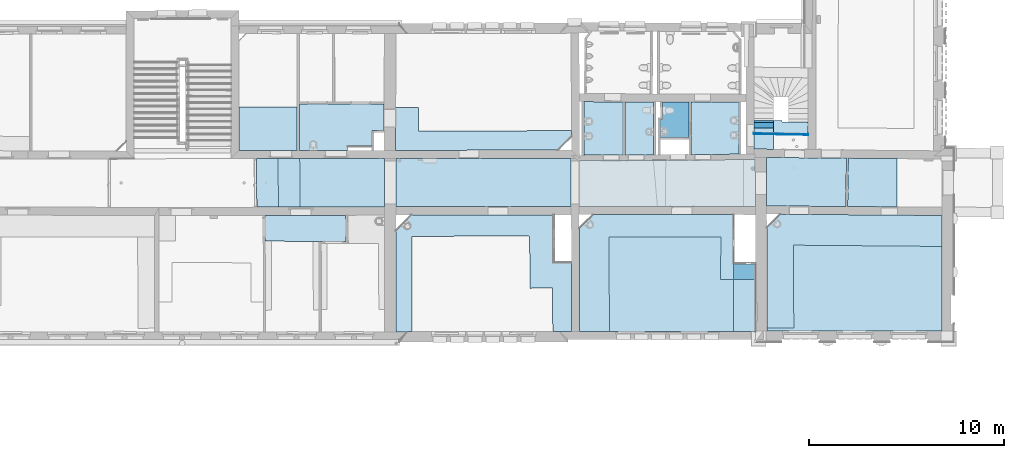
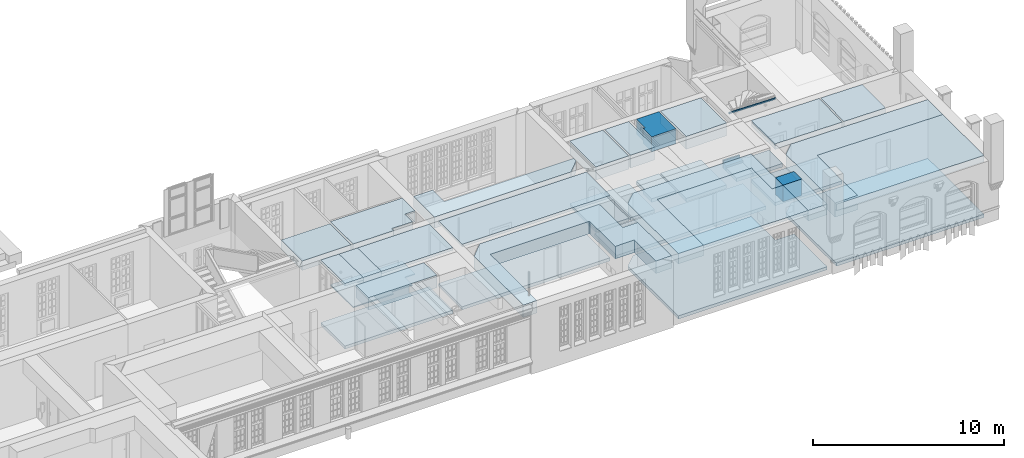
# One storey, part 3 of 90: 37 slabs.
"""IFC2X3 building model written with IfcOpenShell, lengths in metres."""

from ifc_helpers import new_model, entity, si_unit, converted_unit, derived_unit, money_unit, direction, frame, origin_with_axes, place, context, subcontext, project, spatial, polyline, outline, extrude, material, layer, layer_set, layer_usage, type_object, element, save


model = new_model("IFC2X3")

# Units and contexts
model_context = context("Model", 3, precision=1e-05, world=origin_with_axes(), true_north=direction((0.0, 1.0)))
body_context = subcontext(model_context, "Body", "Model", "MODEL_VIEW")
ifc_project = project(units=[si_unit("LENGTHUNIT", "METRE"), si_unit("AREAUNIT", "SQUARE_METRE"), si_unit("VOLUMEUNIT", "CUBIC_METRE"), converted_unit("PLANEANGLEUNIT", "DEGREE", entity("IfcPlaneAngleMeasure", 0.0174532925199), si_unit("PLANEANGLEUNIT", "RADIAN"), dimensions=[0, 0, 0, 0, 0, 0, 0]), money_unit("EUR"), converted_unit("TIMEUNIT", "Year", entity("IfcTimeMeasure", 31556926.0), si_unit("TIMEUNIT", "SECOND"), dimensions=[0, 0, 1, 0, 0, 0, 0]), si_unit("MASSUNIT", "GRAM", prefix="KILO"), si_unit("THERMODYNAMICTEMPERATUREUNIT", "DEGREE_CELSIUS"), si_unit("LUMINOUSINTENSITYUNIT", "LUMEN"), si_unit("ENERGYUNIT", "JOULE", prefix="MEGA"), derived_unit("THERMALCONDUCTANCEUNIT", [(si_unit("POWERUNIT", "WATT"), 1), (si_unit("LENGTHUNIT", "METRE"), -1), (si_unit("THERMODYNAMICTEMPERATUREUNIT", "KELVIN"), -1)]), derived_unit("SPECIFICHEATCAPACITYUNIT", [(si_unit("ENERGYUNIT", "JOULE"), 1), (si_unit("MASSUNIT", "GRAM", prefix="KILO"), -1), (si_unit("THERMODYNAMICTEMPERATUREUNIT", "KELVIN"), -1)]), derived_unit("MASSDENSITYUNIT", [(si_unit("MASSUNIT", "GRAM", prefix="KILO"), 1), (si_unit("VOLUMEUNIT", "CUBIC_METRE"), -1)])], contexts=[model_context])

# Site, building, storey
site_placement = place(None, origin_with_axes())
site = spatial("IfcSite", under=ifc_project, at=site_placement, Name="Gelände", CompositionType="ELEMENT")
building_placement = place(site_placement, origin_with_axes())
building = spatial("IfcBuilding", under=site, at=building_placement, Name="Gebäude", CompositionType="ELEMENT")
storey_placement = place(building_placement, frame((0.0, 0.0, 3.7), z_axis=(0.0, 0.0, 1.0), x_axis=(1.0, 0.0, 0.0)))
storey = spatial("IfcBuildingStorey", under=building, at=storey_placement, Name="1.OBERGESCHOSS", CompositionType="ELEMENT", Elevation=3.7)

# Slabs
ifc_material = material(Name="05_ALLGEMEIN - TRAGENDE BAUTEILE")
ifc_layer_1 = layer(ifc_material, 0.17, ventilated="UNKNOWN")
ifc_layer_set_1 = layer_set([ifc_layer_1], Name="05_ALLGEMEIN - TRAGENDE BAUTEILE 0.17")
ifc_layer_usage_1 = layer_usage(ifc_layer_set_1, "AXIS3", "NEGATIVE", 0.17)
slab_type_1 = type_object("IfcSlabType", Name="05_ALLGEMEIN - TRAGENDE BAUTEILE 170", PredefinedType="NOTDEFINED")
slab_1_placement = place(storey_placement, frame((3.56592682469, 16.8108172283, 3.93), z_axis=(0.0, 0.0, 1.0), x_axis=(1.0, 0.0, 0.0)))
element("IfcSlab", 1, at=slab_1_placement, inside=storey, type_object=slab_type_1, material=ifc_layer_usage_1, Name="Belag-039", PredefinedType="NOTDEFINED", context=body_context, shape_type="SweptSolid", body=[
    extrude(outline(polyline([(0.0, 0.0), (8.97097018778, 0.000310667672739), (8.96157596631, 2.47037920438), (0.0031463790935, 2.4677711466), (0.0, 0.0)])), origin_with_axes(), (0.0, 0.0, 1.0), 0.17),
])
ifc_layer_usage_2 = layer_usage(ifc_layer_set_1, "AXIS3", "NEGATIVE", 0.17)
slab_2_placement = place(storey_placement, frame((2.98907257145, 19.2784196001, 3.93), z_axis=(0.0, 0.0, 1.0), x_axis=(1.0, 0.0, 0.0)))
element("IfcSlab", 2, at=slab_2_placement, inside=storey, type_object=slab_type_1, material=ifc_layer_usage_2, Name="Belag-040", PredefinedType="NOTDEFINED", context=body_context, shape_type="SweptSolid", body=[
    extrude(outline(polyline([(0.0, 0.0), (-4.34920182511, -0.00126615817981), (-4.32489718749, -2.49753767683), (-0.00317359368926, -2.48906283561), (0.0, 0.0)])), origin_with_axes(), (0.0, 0.0, 1.0), 0.17),
])
ifc_layer_usage_3 = layer_usage(ifc_layer_set_1, "AXIS3", "NEGATIVE", 0.17)
slab_3_placement = place(storey_placement, frame((-2.47728179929, 19.2768282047, 3.93), z_axis=(0.0, 0.0, 1.0), x_axis=(1.0, 0.0, 0.0)))
element("IfcSlab", 3, at=slab_3_placement, inside=storey, type_object=slab_type_1, material=ifc_layer_usage_3, Name="Belag-041", PredefinedType="NOTDEFINED", context=body_context, shape_type="SweptSolid", body=[
    extrude(outline(polyline([(0.0, 0.0), (-1.09707924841, -0.000319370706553), (-1.07949869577, -2.50030154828), (0.0331543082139, -2.49811964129), (0.0, 0.0)])), origin_with_axes(), (0.0, 0.0, 1.0), 0.17),
])
ifc_layer_2 = layer(ifc_material, 0.07, ventilated="UNKNOWN")
ifc_layer_set_2 = layer_set([ifc_layer_2], Name="05_ALLGEMEIN - TRAGENDE BAUTEILE 0.07")
ifc_layer_usage_4 = layer_usage(ifc_layer_set_2, "AXIS3", "NEGATIVE", 0.07)
slab_type_2 = type_object("IfcSlabType", Name="05_ALLGEMEIN - TRAGENDE BAUTEILE 70", PredefinedType="NOTDEFINED")
slab_4_placement = place(storey_placement, frame((2.96617481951, 22.0531302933, 0.07), z_axis=(0.0, 0.0, 1.0), x_axis=(1.0, 0.0, 0.0)))
element("IfcSlab", 4, at=slab_4_placement, inside=storey, type_object=slab_type_2, material=ifc_layer_usage_4, Name="Belag-022", PredefinedType="NOTDEFINED", context=body_context, shape_type="SweptSolid", body=[
    extrude(outline(polyline([(0.0, 0.0), (-4.34519696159, 0.0178505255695), (-4.34466997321, -2.36136663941), (-1.88757287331, -2.36065129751), (-1.88763600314, -2.14377560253), (-0.626664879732, -2.14543212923), (-0.628562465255, -1.35225361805), (-0.000857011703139, -1.34224951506), (0.0, 0.0)])), frame((0.0, 0.0, -0.07), z_axis=(0.0, 0.0, 1.0), x_axis=(1.0, 0.0, 0.0)), (0.0, 0.0, 1.0), 0.07),
])
ifc_layer_3 = layer(ifc_material, 0.2, ventilated="UNKNOWN")
ifc_layer_set_3 = layer_set([ifc_layer_3], Name="05_ALLGEMEIN - TRAGENDE BAUTEILE 0.2")
ifc_layer_usage_5 = layer_usage(ifc_layer_set_3, "AXIS3", "NEGATIVE", 0.2)
slab_type_3 = type_object("IfcSlabType", Name="05_ALLGEMEIN - TRAGENDE BAUTEILE 200", PredefinedType="NOTDEFINED")
slab_5_placement = place(storey_placement, frame((13.677992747, 16.3961181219, 0.1), z_axis=(0.0, 0.0, 1.0), x_axis=(1.0, 0.0, 0.0)))
element("IfcSlab", 5, at=slab_5_placement, inside=storey, type_object=slab_type_3, material=ifc_layer_usage_5, Name="Belag-023", PredefinedType="NOTDEFINED", context=body_context, shape_type="SweptSolid", body=[
    extrude(outline(polyline([(0.0, 0.0), (-0.726809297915, -0.711256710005), (-0.70674244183, -5.98749071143), (8.31180155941, -5.9816792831), (8.29977437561, -2.51502315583), (7.16404796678, -2.52053221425), (7.15934338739, -0.00371046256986), (0.0, 0.0)])), frame((0.0, 0.0, -0.2), z_axis=(0.0, 0.0, 1.0), x_axis=(1.0, 0.0, 0.0)), (0.0, 0.0, 1.0), 0.2),
])
ifc_layer_usage_6 = layer_usage(ifc_layer_set_3, "AXIS3", "NEGATIVE", 0.2)
slab_6_placement = place(storey_placement, frame((23.2639076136, 16.4184245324, 0.1), z_axis=(0.0, 0.0, 1.0), x_axis=(1.0, 0.0, 0.0)))
element("IfcSlab", 6, at=slab_6_placement, inside=storey, type_object=slab_type_3, material=ifc_layer_usage_6, Name="Belag-024", PredefinedType="NOTDEFINED", context=body_context, shape_type="SweptSolid", body=[
    extrude(outline(polyline([(0.0, 0.0), (-0.712516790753, -0.698432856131), (-0.694230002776, -5.9693362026), (8.24970889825, -5.96692939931), (8.25421171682, -0.0626994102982), (0.0, 0.0)])), frame((0.0, 0.0, -0.2), z_axis=(0.0, 0.0, 1.0), x_axis=(1.0, 0.0, 0.0)), (0.0, 0.0, 1.0), 0.2),
])
ifc_layer_usage_7 = layer_usage(ifc_layer_set_3, "AXIS3", "NEGATIVE", 0.2)
slab_7_placement = place(storey_placement, frame((26.6309141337, 19.2878694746, 0.1), z_axis=(0.0, 0.0, 1.0), x_axis=(1.0, 0.0, 0.0)))
element("IfcSlab", 7, at=slab_7_placement, inside=storey, type_object=slab_type_3, material=ifc_layer_usage_7, Name="Belag-025", PredefinedType="NOTDEFINED", context=body_context, shape_type="SweptSolid", body=[
    extrude(outline(polyline([(0.0, 0.0), (-4.09203245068, 0.0377068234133), (-4.08342250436, -2.44399090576), (-0.0345406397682, -2.47474639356), (0.0, 0.0)])), frame((0.0, 0.0, -0.2), z_axis=(0.0, 0.0, 1.0), x_axis=(1.0, 0.0, 0.0)), (0.0, 0.0, 1.0), 0.2),
])
ifc_layer_usage_8 = layer_usage(ifc_layer_set_3, "AXIS3", "NEGATIVE", 0.2)
slab_8_placement = place(storey_placement, frame((21.9592496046, 19.2185312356, 0.1), z_axis=(0.0, 0.0, 1.0), x_axis=(1.0, 0.0, 0.0)))
element("IfcSlab", 8, at=slab_8_placement, inside=storey, type_object=slab_type_3, material=ifc_layer_usage_8, Name="Belag-026", PredefinedType="NOTDEFINED", context=body_context, shape_type="SweptSolid", body=[
    extrude(outline(polyline([(0.0, 0.0), (-9.02126910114, -0.0621783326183), (-9.0123701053, -2.40203418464), (0.00834975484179, -2.40670932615), (0.0, 0.0)])), frame((0.0, 0.0, -0.2), z_axis=(0.0, 0.0, 1.0), x_axis=(1.0, 0.0, 0.0)), (0.0, 0.0, 1.0), 0.2),
])
ifc_layer_usage_9 = layer_usage(ifc_layer_set_3, "AXIS3", "NEGATIVE", 0.2)
slab_9_placement = place(storey_placement, frame((3.56907320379, 19.2785883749, 0.1), z_axis=(0.0, 0.0, 1.0), x_axis=(1.0, 0.0, 0.0)))
element("IfcSlab", 9, at=slab_9_placement, inside=storey, type_object=slab_type_3, material=ifc_layer_usage_9, Name="Belag-027", PredefinedType="NOTDEFINED", context=body_context, shape_type="SweptSolid", body=[
    extrude(outline(polyline([(0.0, 0.0), (-0.0031463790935, -2.4677711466), (8.96782380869, -2.46746047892), (8.95842958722, 0.00260805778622), (0.0, 0.0)])), frame((0.0, 0.0, -0.2), z_axis=(0.0, 0.0, 1.0), x_axis=(1.0, 0.0, 0.0)), (0.0, 0.0, 1.0), 0.2),
])
ifc_layer_usage_10 = layer_usage(ifc_layer_set_3, "AXIS3", "NEGATIVE", 0.2)
slab_10_placement = place(storey_placement, frame((2.98907257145, 19.2784195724, 0.1), z_axis=(0.0, 0.0, 1.0), x_axis=(1.0, 0.0, 0.0)))
element("IfcSlab", 10, at=slab_10_placement, inside=storey, type_object=slab_type_3, material=ifc_layer_usage_10, Name="Belag-028", PredefinedType="NOTDEFINED", context=body_context, shape_type="SweptSolid", body=[
    extrude(outline(polyline([(0.0, 0.0), (-6.56343361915, -0.00191077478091), (-6.54585306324, -2.50189291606), (-0.00317360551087, -2.48906284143), (0.0, 0.0)])), frame((0.0, 0.0, -0.2), z_axis=(0.0, 0.0, 1.0), x_axis=(1.0, 0.0, 0.0)), (0.0, 0.0, 1.0), 0.2),
])
ifc_layer_usage_11 = layer_usage(ifc_layer_set_3, "AXIS3", "NEGATIVE", 0.2)
slab_11_placement = place(storey_placement, frame((13.1831419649, 19.438049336, 0.1), z_axis=(0.0, 0.0, 1.0), x_axis=(1.0, 0.0, 0.0)))
element("IfcSlab", 11, at=slab_11_placement, inside=storey, type_object=slab_type_3, material=ifc_layer_usage_11, Name="Belag-033", PredefinedType="NOTDEFINED", context=body_context, shape_type="SweptSolid", body=[
    extrude(outline(polyline([(0.0, 0.0), (2.00373569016, 0.0138105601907), (2.00664637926, 2.73457574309), (0.00251049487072, 2.74074438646), (0.0, 0.0)])), frame((0.0, 0.0, -0.2), z_axis=(0.0, 0.0, 1.0), x_axis=(1.0, 0.0, 0.0)), (0.0, 0.0, 1.0), 0.2),
])
ifc_layer_usage_12 = layer_usage(ifc_layer_set_3, "AXIS3", "NEGATIVE", 0.2)
slab_12_placement = place(storey_placement, frame((15.2897880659, 22.1723172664, 0.1), z_axis=(0.0, 0.0, 1.0), x_axis=(1.0, 0.0, 0.0)))
element("IfcSlab", 12, at=slab_12_placement, inside=storey, type_object=slab_type_3, material=ifc_layer_usage_12, Name="Belag-034", PredefinedType="NOTDEFINED", context=body_context, shape_type="SweptSolid", body=[
    extrude(outline(polyline([(0.0, 0.0), (-0.00290960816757, -2.7197681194), (1.4706151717, -2.70961198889), (1.47500015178, -0.00453999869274), (0.0, 0.0)])), frame((0.0, 0.0, -0.2), z_axis=(0.0, 0.0, 1.0), x_axis=(1.0, 0.0, 0.0)), (0.0, 0.0, 1.0), 0.2),
])
ifc_layer_4 = layer(ifc_material, 0.228374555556, ventilated="UNKNOWN")
ifc_layer_set_4 = layer_set([ifc_layer_4], Name="05_ALLGEMEIN - TRAGENDE BAUTEILE 0.228375")
ifc_layer_usage_13 = layer_usage(ifc_layer_set_4, "AXIS3", "NEGATIVE", 0.228374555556)
slab_type_4 = type_object("IfcSlabType", Name="05_ALLGEMEIN - TRAGENDE BAUTEILE 228", PredefinedType="NOTDEFINED")
slab_13_placement = place(storey_placement, frame((21.8942092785, 19.7515346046, 0.128374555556), z_axis=(0.0, 0.0, 1.0), x_axis=(1.0, 0.0, 0.0)))
element("IfcSlab", 13, at=slab_13_placement, inside=storey, type_object=slab_type_4, material=ifc_layer_usage_13, Name="Belag-029", PredefinedType="NOTDEFINED", context=body_context, shape_type="SweptSolid", body=[
    extrude(outline(polyline([(0.0, 0.0), (0.999988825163, -0.00921459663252), (1.001488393, 1.14084799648), (0.00148924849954, 1.14215189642), (0.0, 0.0)])), frame((0.0, 0.0, -0.228374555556), z_axis=(0.0, 0.0, 1.0), x_axis=(1.0, 0.0, 0.0)), (0.0, 0.0, 1.0), 0.228374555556),
])
ifc_layer_usage_14 = layer_usage(ifc_layer_set_4, "AXIS3", "NEGATIVE", 0.228374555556)
slab_14_placement = place(storey_placement, frame((22.8941981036, 19.742320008, 0.128374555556), z_axis=(0.0, 0.0, 1.0), x_axis=(1.0, 0.0, 0.0)))
element("IfcSlab", 14, at=slab_14_placement, inside=storey, type_object=slab_type_4, material=ifc_layer_usage_14, Name="Belag-029", PredefinedType="NOTDEFINED", context=body_context, shape_type="SweptSolid", body=[
    extrude(outline(polyline([(0.0, 0.0), (1.77766144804, -0.0163806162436), (1.77787002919, 1.39662617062), (0.448693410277, 1.38709116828), (0.448097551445, 1.47015372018), (0.0019177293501, 1.47076293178), (0.0, 0.0)])), frame((0.0, 0.0, -0.228374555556), z_axis=(0.0, 0.0, 1.0), x_axis=(1.0, 0.0, 0.0)), (0.0, 0.0, 1.0), 0.228374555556),
])
ifc_layer_5 = layer(ifc_material, 0.356604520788, ventilated="UNKNOWN")
ifc_layer_set_5 = layer_set([ifc_layer_5], Name="05_ALLGEMEIN - TRAGENDE BAUTEILE 0.356605")
ifc_layer_usage_15 = layer_usage(ifc_layer_set_5, "AXIS3", "NEGATIVE", 0.356604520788)
slab_type_5 = type_object("IfcSlabType", Name="05_ALLGEMEIN - TRAGENDE BAUTEILE 357", PredefinedType="NOTDEFINED")
slab_15_placement = place(storey_placement, frame((22.8956324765, 20.8423826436, 0.256604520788), z_axis=(0.0, 0.0, 1.0), x_axis=(1.0, 0.0, 0.0)))
element("IfcSlab", 15, at=slab_15_placement, inside=storey, type_object=slab_type_5, material=ifc_layer_usage_15, Name="Belag-029", PredefinedType="NOTDEFINED", context=body_context, shape_type="SweptSolid", body=[
    extrude(outline(polyline([(0.0, 0.0), (0.000349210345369, 0.267819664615), (-0.999649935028, 0.269123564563), (-0.999999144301, 0.00130389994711), (0.0, 0.0)])), frame((0.0, 0.0, -0.356604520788), z_axis=(0.0, 0.0, 1.0), x_axis=(1.0, 0.0, 0.0)), (0.0, 0.0, 1.0), 0.356604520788),
])
ifc_layer_6 = layer(ifc_material, 0.532779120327, ventilated="UNKNOWN")
ifc_layer_set_6 = layer_set([ifc_layer_6], Name="05_ALLGEMEIN - TRAGENDE BAUTEILE 0.532779")
ifc_layer_usage_16 = layer_usage(ifc_layer_set_6, "AXIS3", "NEGATIVE", 0.532779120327)
slab_type_6 = type_object("IfcSlabType", Name="05_ALLGEMEIN - TRAGENDE BAUTEILE 533", PredefinedType="NOTDEFINED")
slab_16_placement = place(storey_placement, frame((22.8959816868, 21.1102023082, 0.432779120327), z_axis=(0.0, 0.0, 1.0), x_axis=(1.0, 0.0, 0.0)))
element("IfcSlab", 16, at=slab_16_placement, inside=storey, type_object=slab_type_6, material=ifc_layer_usage_16, Name="Belag-029", PredefinedType="NOTDEFINED", context=body_context, shape_type="SweptSolid", body=[
    extrude(outline(polyline([(0.0, 0.0), (0.000134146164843, 0.102880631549), (-0.999864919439, 0.104246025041), (-0.999999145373, 0.00130389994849), (0.0, 0.0)])), frame((0.0, 0.0, -0.532779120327), z_axis=(0.0, 0.0, 1.0), x_axis=(1.0, 0.0, 0.0)), (0.0, 0.0, 1.0), 0.532779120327),
])
ifc_layer_7 = layer(ifc_material, 0.0925042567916, ventilated="UNKNOWN")
ifc_layer_set_7 = layer_set([ifc_layer_7], Name="05_ALLGEMEIN - TRAGENDE BAUTEILE 0.0925043")
ifc_layer_usage_17 = layer_usage(ifc_layer_set_7, "AXIS3", "NEGATIVE", 0.0925042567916)
slab_type_7 = type_object("IfcSlabType", Name="05_ALLGEMEIN - TRAGENDE BAUTEILE 93", PredefinedType="NOTDEFINED")
slab_17_placement = place(storey_placement, frame((21.8952134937, 20.5216968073, 3.77749574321), z_axis=(0.0, 0.0, 1.0), x_axis=(1.0, 0.0, 0.0)))
element("IfcSlab", 17, at=slab_17_placement, inside=storey, type_object=slab_type_7, material=ifc_layer_usage_17, Name="Belag-030", PredefinedType="NOTDEFINED", context=body_context, shape_type="SweptSolid", body=[
    extrude(outline(polyline([(0.0, 0.0), (2.77675577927, -0.0524075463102), (2.77676612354, 0.0176163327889), (2.77583220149, -0.023373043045), (5.19696113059e-05, 0.039870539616), (0.0, 0.0)])), origin_with_axes(), (0.0, 0.0, 1.0), 0.0925042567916),
])
ifc_layer_8 = layer(ifc_material, 0.69, ventilated="UNKNOWN")
ifc_layer_set_8 = layer_set([ifc_layer_8], Name="05_ALLGEMEIN - TRAGENDE BAUTEILE 0.69")
ifc_layer_usage_18 = layer_usage(ifc_layer_set_8, "AXIS3", "NEGATIVE", 0.69)
slab_type_8 = type_object("IfcSlabType", Name="05_ALLGEMEIN - TRAGENDE BAUTEILE 690", PredefinedType="NOTDEFINED")
slab_18_placement = place(storey_placement, frame((2.96617481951, 22.0531302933, 3.41), z_axis=(0.0, 0.0, 1.0), x_axis=(1.0, 0.0, 0.0)))
element("IfcSlab", 18, at=slab_18_placement, inside=storey, type_object=slab_type_8, material=ifc_layer_usage_18, Name="Belag-034", PredefinedType="NOTDEFINED", context=body_context, shape_type="SweptSolid", body=[
    extrude(outline(polyline([(0.0, 0.0), (-4.34519696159, 0.0178505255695), (-4.34466997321, -2.36136663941), (-1.88757287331, -2.36065129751), (-1.88763600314, -2.14377560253), (-0.626664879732, -2.14543212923), (-0.628562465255, -1.35225361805), (-0.000857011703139, -1.34224951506), (0.0, 0.0)])), origin_with_axes(), (0.0, 0.0, 1.0), 0.69),
])
ifc_layer_9 = layer(ifc_material, 0.71, ventilated="UNKNOWN")
ifc_layer_set_9 = layer_set([ifc_layer_9], Name="05_ALLGEMEIN - TRAGENDE BAUTEILE 0.71")
ifc_layer_usage_19 = layer_usage(ifc_layer_set_9, "AXIS3", "NEGATIVE", 0.71)
slab_type_9 = type_object("IfcSlabType", Name="05_ALLGEMEIN - TRAGENDE BAUTEILE 710", PredefinedType="NOTDEFINED")
slab_19_placement = place(storey_placement, frame((3.55466810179, 19.6931998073, 3.39), z_axis=(0.0, 0.0, 1.0), x_axis=(1.0, 0.0, 0.0)))
element("IfcSlab", 19, at=slab_19_placement, inside=storey, type_object=slab_type_9, material=ifc_layer_usage_19, Name="Belag-035", PredefinedType="NOTDEFINED", context=body_context, shape_type="SweptSolid", body=[
    extrude(outline(polyline([(0.0, 0.0), (8.27057818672, 0.00240771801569), (9.00212082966, 0.739761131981), (9.00063681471, 1.00541617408), (1.15400184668, 0.984629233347), (1.16384989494, 2.18929322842), (0.0013992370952, 2.19137511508), (0.0, 0.0)])), origin_with_axes(), (0.0, 0.0, 1.0), 0.71),
])
ifc_layer_10 = layer(ifc_material, 0.23, ventilated="UNKNOWN")
ifc_layer_set_10 = layer_set([ifc_layer_10], Name="05_ALLGEMEIN - TRAGENDE BAUTEILE 0.23")
ifc_layer_usage_20 = layer_usage(ifc_layer_set_10, "AXIS3", "NEGATIVE", 0.23)
slab_type_10 = type_object("IfcSlabType", Name="05_ALLGEMEIN - TRAGENDE BAUTEILE 230", PredefinedType="NOTDEFINED")
slab_20_placement = place(storey_placement, frame((17.0906597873, 21.2634914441, 0.13), z_axis=(0.0, 0.0, 1.0), x_axis=(1.0, 0.0, 0.0)))
element("IfcSlab", 20, at=slab_20_placement, inside=storey, type_object=slab_type_10, material=ifc_layer_usage_20, Name="Belag-035", PredefinedType="NOTDEFINED", context=body_context, shape_type="SweptSolid", body=[
    extrude(outline(polyline([(0.0, 0.0), (-0.00107514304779, -0.916560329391), (1.48703949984, -0.904087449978), (1.48010937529, 0.898727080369), (0.117319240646, 0.90292169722), (0.125657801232, -0.0078136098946), (0.0, 0.0)])), frame((0.0, 0.0, -0.23), z_axis=(0.0, 0.0, 1.0), x_axis=(1.0, 0.0, 0.0)), (0.0, 0.0, 1.0), 0.23),
])
ifc_layer_usage_21 = layer_usage(ifc_layer_set_10, "AXIS3", "NEGATIVE", 0.23)
slab_21_placement = place(storey_placement, frame((21.1252305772, 22.1543559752, 0.13), z_axis=(0.0, 0.0, 1.0), x_axis=(1.0, 0.0, 0.0)))
element("IfcSlab", 21, at=slab_21_placement, inside=storey, type_object=slab_type_10, material=ifc_layer_usage_21, Name="Belag-036", PredefinedType="NOTDEFINED", context=body_context, shape_type="SweptSolid", body=[
    extrude(outline(polyline([(0.0, 0.0), (-2.45445949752, 0.00755474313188), (-2.44413448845, -2.67841249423), (0.00515590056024, -2.66153098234), (0.0, 0.0)])), frame((0.0, 0.0, -0.23), z_axis=(0.0, 0.0, 1.0), x_axis=(1.0, 0.0, 0.0)), (0.0, 0.0, 1.0), 0.23),
])
ifc_layer_11 = layer(ifc_material, 0.61, ventilated="UNKNOWN")
ifc_layer_set_11 = layer_set([ifc_layer_11], Name="05_ALLGEMEIN - TRAGENDE BAUTEILE 0.61")
ifc_layer_usage_22 = layer_usage(ifc_layer_set_11, "AXIS3", "NEGATIVE", 0.61)
slab_type_11 = type_object("IfcSlabType", Name="05_ALLGEMEIN - TRAGENDE BAUTEILE 610", PredefinedType="NOTDEFINED")
slab_22_placement = place(storey_placement, frame((-4.46417945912, 21.9044228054, 3.49), z_axis=(0.0, 0.0, 1.0), x_axis=(1.0, 0.0, 0.0)))
element("IfcSlab", 22, at=slab_22_placement, inside=storey, type_object=slab_type_11, material=ifc_layer_usage_22, Name="Belag-036", PredefinedType="NOTDEFINED", context=body_context, shape_type="SweptSolid", body=[
    extrude(outline(polyline([(0.0, 0.0), (-0.000976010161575, -2.21355774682), (2.95888980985, -2.21269605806), (2.95839953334, 0.000701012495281), (0.0, 0.0)])), origin_with_axes(), (0.0, 0.0, 1.0), 0.61),
])
ifc_layer_12 = layer(ifc_material, 0.91, ventilated="UNKNOWN")
ifc_layer_set_12 = layer_set([ifc_layer_12], Name="05_ALLGEMEIN - TRAGENDE BAUTEILE 0.91")
ifc_layer_usage_23 = layer_usage(ifc_layer_set_12, "AXIS3", "NEGATIVE", 0.91)
slab_type_12 = type_object("IfcSlabType", Name="05_ALLGEMEIN - TRAGENDE BAUTEILE 910", PredefinedType="NOTDEFINED")
slab_23_placement = place(storey_placement, frame((23.2639076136, 16.4184245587, 2.96), z_axis=(0.0, 0.0, 1.0), x_axis=(1.0, 0.0, 0.0)))
element("IfcSlab", 23, at=slab_23_placement, inside=storey, type_object=slab_type_12, material=ifc_layer_usage_23, Name="Belag-040", PredefinedType="NOTDEFINED", context=body_context, shape_type="SweptSolid", body=[
    extrude(outline(polyline([(0.0, 0.0), (-0.712516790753, -0.698432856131), (-0.694703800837, -5.83277760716), (0.670566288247, -5.82412805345), (0.659121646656, -1.58299940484), (8.2530022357, -1.64866586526), (8.25421171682, -0.0626994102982), (0.0, 0.0)])), origin_with_axes(), (0.0, 0.0, 1.0), 0.91),
])
ifc_layer_13 = layer(ifc_material, 0.67, ventilated="UNKNOWN")
ifc_layer_set_13 = layer_set([ifc_layer_13], Name="05_ALLGEMEIN - TRAGENDE BAUTEILE 0.67")
ifc_layer_usage_24 = layer_usage(ifc_layer_set_13, "AXIS3", "NEGATIVE", 0.67)
slab_type_13 = type_object("IfcSlabType", Name="05_ALLGEMEIN - TRAGENDE BAUTEILE 670", PredefinedType="NOTDEFINED")
slab_24_placement = place(storey_placement, frame((12.9511834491, 15.6848614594, 3.43), z_axis=(0.0, 0.0, 1.0), x_axis=(1.0, 0.0, 0.0)))
element("IfcSlab", 24, at=slab_24_placement, inside=storey, type_object=slab_type_13, material=ifc_layer_usage_24, Name="Belag-039", PredefinedType="NOTDEFINED", context=body_context, shape_type="SweptSolid", body=[
    extrude(outline(polyline([(0.0, 0.0), (0.0200668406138, -5.27623404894), (1.54385437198, -5.2752521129), (1.52264427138, -0.428943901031), (7.25652212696, -0.425064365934), (7.22790123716, -2.60910423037), (7.88978162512, -2.60887870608), (7.89085727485, -1.80927552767), (7.88615277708, 0.707546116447), (0.726809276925, 0.71125656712), (0.0, 0.0)])), origin_with_axes(), (0.0, 0.0, 1.0), 0.67),
])
ifc_layer_usage_25 = layer_usage(ifc_layer_set_13, "AXIS3", "NEGATIVE", 0.67)
slab_25_placement = place(storey_placement, frame((20.8409650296, 13.0759827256, 3.43), z_axis=(0.0, 0.0, 1.0), x_axis=(1.0, 0.0, 0.0)))
element("IfcSlab", 25, at=slab_25_placement, inside=storey, type_object=slab_type_13, material=ifc_layer_usage_25, Name="Belag-041", PredefinedType="NOTDEFINED", context=body_context, shape_type="SweptSolid", body=[
    extrude(outline(polyline([(0.0, 0.0), (-0.00358155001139, -2.66228644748), (1.14882927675, -2.66154384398), (1.14313197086, -1.01937510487), (1.13959402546, 0.000388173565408), (0.0, 0.0)])), origin_with_axes(), (0.0, 0.0, 1.0), 0.67),
])
ifc_layer_14 = layer(ifc_material, 0.8, ventilated="UNKNOWN")
ifc_layer_set_14 = layer_set([ifc_layer_14], Name="05_ALLGEMEIN - TRAGENDE BAUTEILE 0.8")
ifc_layer_usage_26 = layer_usage(ifc_layer_set_14, "AXIS3", "NEGATIVE", 0.8)
slab_type_14 = type_object("IfcSlabType", Name="05_ALLGEMEIN - TRAGENDE BAUTEILE 800", PredefinedType="NOTDEFINED")
slab_26_placement = place(storey_placement, frame((-3.1338573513, 16.3573552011, 3.3), z_axis=(0.0, 0.0, 1.0), x_axis=(1.0, 0.0, 0.0)))
element("IfcSlab", 26, at=slab_26_placement, inside=storey, type_object=slab_type_14, material=ifc_layer_usage_26, Name="Belag-039", PredefinedType="NOTDEFINED", context=body_context, shape_type="SweptSolid", body=[
    extrude(outline(polyline([(0.0, 0.0), (0.00617588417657, -1.31770376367), (0.317714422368, -1.31901290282), (2.76199937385, -1.32928427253), (4.14663507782, -1.32522202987), (4.12803760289, 0.00809501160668), (0.0, 0.0)])), origin_with_axes(), (0.0, 0.0, 1.0), 0.8),
])
ifc_layer_usage_27 = layer_usage(ifc_layer_set_14, "AXIS3", "NEGATIVE", 0.8)
slab_27_placement = place(storey_placement, frame((10.4119866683, 15.2555439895, 3.3), z_axis=(0.0, 0.0, 1.0), x_axis=(1.0, 0.0, 0.0)))
element("IfcSlab", 27, at=slab_27_placement, inside=storey, type_object=slab_type_14, material=ifc_layer_usage_27, Name="Belag-039", PredefinedType="NOTDEFINED", context=body_context, shape_type="SweptSolid", body=[
    extrude(outline(polyline([(0.0, 0.0), (0.0148415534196, -2.62698418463), (1.17188789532, -2.61728706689), (1.18452483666, -4.85250243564), (1.54621793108, -4.85256537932), (1.54621880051, -4.84756937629), (2.14926165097, -4.84718078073), (2.13582573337, -1.31443327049), (1.21685995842, -1.32288946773), (1.2168730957, 1.13555244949), (-6.03324666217, 1.13530138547), (-6.8476587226, 0.30126057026), (-6.8542393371, -4.85996437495), (-6.2718551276, -4.85992054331), (-6.2652563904, -4.85120598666), (-6.02225581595, -4.85124827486), (-6.02547065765, 0.0313172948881), (-0.0383435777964, 0.0440438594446), (0.0, 0.0)])), origin_with_axes(), (0.0, 0.0, 1.0), 0.8),
])
ifc_layer_15 = layer(ifc_material, 0.82, ventilated="UNKNOWN")
ifc_layer_set_15 = layer_set([ifc_layer_15], Name="05_ALLGEMEIN - TRAGENDE BAUTEILE 0.82")
ifc_layer_usage_28 = layer_usage(ifc_layer_set_15, "AXIS3", "NEGATIVE", 0.82)
slab_type_15 = type_object("IfcSlabType", Name="05_ALLGEMEIN - TRAGENDE BAUTEILE 820", PredefinedType="NOTDEFINED")
slab_28_placement = place(storey_placement, frame((15.2868784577, 19.452549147, 3.28), z_axis=(0.0, 0.0, 1.0), x_axis=(1.0, 0.0, 0.0)))
element("IfcSlab", 28, at=slab_28_placement, inside=storey, type_object=slab_type_15, material=ifc_layer_usage_28, Name="Belag-041", PredefinedType="NOTDEFINED", context=body_context, shape_type="SweptSolid", body=[
    extrude(outline(polyline([(0.0, 0.0), (1.47352477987, 0.0101561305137), (1.47790975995, 2.71522812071), (0.00290960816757, 2.7197681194), (0.0, 0.0)])), origin_with_axes(), (0.0, 0.0, 1.0), 0.82),
])
ifc_layer_usage_29 = layer_usage(ifc_layer_set_15, "AXIS3", "NEGATIVE", 0.82)
slab_29_placement = place(storey_placement, frame((21.1252305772, 22.1543559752, 3.28), z_axis=(0.0, 0.0, 1.0), x_axis=(1.0, 0.0, 0.0)))
element("IfcSlab", 29, at=slab_29_placement, inside=storey, type_object=slab_type_15, material=ifc_layer_usage_29, Name="Belag-043", PredefinedType="NOTDEFINED", context=body_context, shape_type="SweptSolid", body=[
    extrude(outline(polyline([(0.0, 0.0), (-2.45445949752, 0.00755474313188), (-2.44413448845, -2.67841249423), (0.00515590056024, -2.66153098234), (0.0, 0.0)])), origin_with_axes(), (0.0, 0.0, 1.0), 0.82),
])
ifc_layer_16 = layer(ifc_material, 0.86, ventilated="UNKNOWN")
ifc_layer_set_16 = layer_set([ifc_layer_16], Name="05_ALLGEMEIN - TRAGENDE BAUTEILE 0.86")
ifc_layer_usage_30 = layer_usage(ifc_layer_set_16, "AXIS3", "NEGATIVE", 0.86)
slab_type_16 = type_object("IfcSlabType", Name="05_ALLGEMEIN - TRAGENDE BAUTEILE 860", PredefinedType="NOTDEFINED")
slab_30_placement = place(storey_placement, frame((26.6923509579, 16.8123940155, 3.01), z_axis=(0.0, 0.0, 1.0), x_axis=(1.0, 0.0, 0.0)))
element("IfcSlab", 30, at=slab_30_placement, inside=storey, type_object=slab_type_16, material=ifc_layer_usage_30, Name="Belag-039", PredefinedType="NOTDEFINED", context=body_context, shape_type="SweptSolid", body=[
    extrude(outline(polyline([(0.0, 0.0), (2.51262524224, -0.0190860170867), (2.53885509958, 2.45151453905), (0.0345385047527, 2.4745910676), (0.0, 0.0)])), origin_with_axes(), (0.0, 0.0, 1.0), 0.86),
])
ifc_layer_17 = layer(ifc_material, 0.41, ventilated="UNKNOWN")
ifc_layer_set_17 = layer_set([ifc_layer_17], Name="05_ALLGEMEIN - TRAGENDE BAUTEILE 0.41")
ifc_layer_usage_31 = layer_usage(ifc_layer_set_17, "AXIS3", "NEGATIVE", 0.41)
slab_type_17 = type_object("IfcSlabType", Name="05_ALLGEMEIN - TRAGENDE BAUTEILE 410", PredefinedType="NOTDEFINED")
slab_31_placement = place(storey_placement, frame((23.9344738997, 10.5942965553, 3.46), z_axis=(0.0, 0.0, 1.0), x_axis=(1.0, 0.0, 0.0)))
element("IfcSlab", 31, at=slab_31_placement, inside=storey, type_object=slab_type_17, material=ifc_layer_usage_31, Name="Belag-039", PredefinedType="NOTDEFINED", context=body_context, shape_type="SweptSolid", body=[
    extrude(outline(polyline([(0.0, 0.0), (-1.36527008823, -0.00864960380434), (-1.36479636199, -0.145208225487), (4.908313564, -0.143520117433), (7.57914263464, -0.142801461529), (7.58243591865, 4.17546213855), (-0.0114446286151, 4.24112862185), (0.0, 0.0)])), origin_with_axes(), (0.0, 0.0, 1.0), 0.41),
])
ifc_layer_18 = layer(ifc_material, 0.36, ventilated="UNKNOWN")
ifc_layer_set_18 = layer_set([ifc_layer_18], Name="05_ALLGEMEIN - TRAGENDE BAUTEILE 0.36")
ifc_layer_usage_32 = layer_usage(ifc_layer_set_18, "AXIS3", "NEGATIVE", 0.36)
slab_type_18 = type_object("IfcSlabType", Name="05_ALLGEMEIN - TRAGENDE BAUTEILE 360", PredefinedType="NOTDEFINED")
slab_32_placement = place(storey_placement, frame((26.6309141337, 19.2878694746, 3.51), z_axis=(0.0, 0.0, 1.0), x_axis=(1.0, 0.0, 0.0)))
element("IfcSlab", 32, at=slab_32_placement, inside=storey, type_object=slab_type_18, material=ifc_layer_usage_32, Name="Belag-039", PredefinedType="NOTDEFINED", context=body_context, shape_type="SweptSolid", body=[
    extrude(outline(polyline([(0.0, 0.0), (-4.09203245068, 0.0377068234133), (-4.08342250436, -2.44399090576), (-0.0345406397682, -2.47474639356), (0.0, 0.0)])), origin_with_axes(), (0.0, 0.0, 1.0), 0.36),
])
ifc_layer_19 = layer(ifc_material, 0.18, ventilated="UNKNOWN")
ifc_layer_set_19 = layer_set([ifc_layer_19], Name="05_ALLGEMEIN - TRAGENDE BAUTEILE 0.18")
ifc_layer_usage_33 = layer_usage(ifc_layer_set_19, "AXIS3", "NEGATIVE", 0.18)
slab_type_19 = type_object("IfcSlabType", Name="05_ALLGEMEIN - TRAGENDE BAUTEILE 180", PredefinedType="NOTDEFINED")
slab_33_placement = place(storey_placement, frame((14.473827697, 15.2559175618, 3.92), z_axis=(0.0, 0.0, 1.0), x_axis=(1.0, 0.0, 0.0)))
element("IfcSlab", 33, at=slab_33_placement, inside=storey, type_object=slab_type_19, material=ifc_layer_usage_33, Name="Belag-039", PredefinedType="NOTDEFINED", context=body_context, shape_type="SweptSolid", body=[
    extrude(outline(polyline([(0.0, 0.0), (0.0212101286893, -4.84630823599), (3.63714626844, -4.84397813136), (6.36355578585, -4.84222127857), (6.36713732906, -2.1799348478), (5.70525696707, -2.18016027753), (5.7338779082, 0.0038795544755), (0.0, 0.0)])), origin_with_axes(), (0.0, 0.0, 1.0), 0.18),
])
ifc_layer_20 = layer(ifc_material, 0.85, ventilated="UNKNOWN")
ifc_layer_set_20 = layer_set([ifc_layer_20], Name="05_ALLGEMEIN - TRAGENDE BAUTEILE 0.85")
ifc_layer_usage_34 = layer_usage(ifc_layer_set_20, "AXIS3", "NEGATIVE", 0.85)
slab_type_20 = type_object("IfcSlabType", Name="05_ALLGEMEIN - TRAGENDE BAUTEILE 850", PredefinedType="NOTDEFINED")
slab_34_placement = place(storey_placement, frame((13.1831419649, 19.438049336, 3.25), z_axis=(0.0, 0.0, 1.0), x_axis=(1.0, 0.0, 0.0)))
element("IfcSlab", 34, at=slab_34_placement, inside=storey, type_object=slab_type_20, material=ifc_layer_usage_34, Name="Belag-040", PredefinedType="NOTDEFINED", context=body_context, shape_type="SweptSolid", body=[
    extrude(outline(polyline([(0.0, 0.0), (2.00373569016, 0.0138105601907), (2.00664637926, 2.73457574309), (0.00251049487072, 2.74074438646), (0.0, 0.0)])), origin_with_axes(), (0.0, 0.0, 1.0), 0.85),
])
ifc_layer_21 = layer(ifc_material, 1.06, ventilated="UNKNOWN")
ifc_layer_set_21 = layer_set([ifc_layer_21], Name="05_ALLGEMEIN - TRAGENDE BAUTEILE 1.06")
ifc_layer_usage_35 = layer_usage(ifc_layer_set_21, "AXIS3", "NEGATIVE", 1.06)
slab_type_21 = type_object("IfcSlabType", Name="05_ALLGEMEIN - TRAGENDE BAUTEILE 1060", PredefinedType="NOTDEFINED")
slab_35_placement = place(storey_placement, frame((20.8420407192, 13.8755858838, 3.04), z_axis=(0.0, 0.0, 1.0), x_axis=(1.0, 0.0, 0.0)))
element("IfcSlab", 35, at=slab_35_placement, inside=storey, type_object=slab_type_21, material=ifc_layer_usage_35, Name="Belag-040", PredefinedType="NOTDEFINED", context=body_context, shape_type="SweptSolid", body=[
    extrude(outline(polyline([(0.0, 0.0), (-0.00107569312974, -0.799603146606), (1.1385183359, -0.799214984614), (1.13572644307, 0.00550907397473), (0.0, 0.0)])), origin_with_axes(), (0.0, 0.0, 1.0), 1.06),
])
ifc_layer_22 = layer(ifc_material, 0.96, ventilated="UNKNOWN")
ifc_layer_set_22 = layer_set([ifc_layer_22], Name="05_ALLGEMEIN - TRAGENDE BAUTEILE 0.96")
ifc_layer_usage_36 = layer_usage(ifc_layer_set_22, "AXIS3", "NEGATIVE", 0.96)
slab_type_22 = type_object("IfcSlabType", Name="05_ALLGEMEIN - TRAGENDE BAUTEILE 960", PredefinedType="NOTDEFINED")
slab_36_placement = place(storey_placement, frame((17.0906597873, 21.2634914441, 3.14), z_axis=(0.0, 0.0, 1.0), x_axis=(1.0, 0.0, 0.0)))
element("IfcSlab", 36, at=slab_36_placement, inside=storey, type_object=slab_type_22, material=ifc_layer_usage_36, Name="Belag-042", PredefinedType="NOTDEFINED", context=body_context, shape_type="SweptSolid", body=[
    extrude(outline(polyline([(0.0, 0.0), (-0.00107514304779, -0.916560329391), (1.48703949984, -0.904087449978), (1.48010937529, 0.898727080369), (0.117319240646, 0.90292169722), (0.125657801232, -0.0078136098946), (0.0, 0.0)])), origin_with_axes(), (0.0, 0.0, 1.0), 0.96),
])
ifc_layer_23 = layer(ifc_material, 0.68, ventilated="UNKNOWN")
ifc_layer_set_23 = layer_set([ifc_layer_23], Name="05_ALLGEMEIN - TRAGENDE BAUTEILE 0.68")
ifc_layer_usage_37 = layer_usage(ifc_layer_set_23, "AXIS3", "NEGATIVE", 0.68)
slab_type_23 = type_object("IfcSlabType", Name="05_ALLGEMEIN - TRAGENDE BAUTEILE 680", PredefinedType="NOTDEFINED")
slab_37_placement = place(storey_placement, frame((-2.47728181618, 19.2768281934, 3.42), z_axis=(0.0, 0.0, 1.0), x_axis=(1.0, 0.0, 0.0)))
element("IfcSlab", 37, at=slab_37_placement, inside=storey, type_object=slab_type_23, material=ifc_layer_usage_37, Name="Belag-042", PredefinedType="NOTDEFINED", context=body_context, shape_type="SweptSolid", body=[
    extrude(outline(polyline([(0.0, 0.0), (0.0331542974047, -2.49811963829), (1.14145719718, -2.49594627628), (1.11715256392, 0.000325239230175), (0.0, 0.0)])), origin_with_axes(), (0.0, 0.0, 1.0), 0.68),
])

save(model, "model.ifc")
